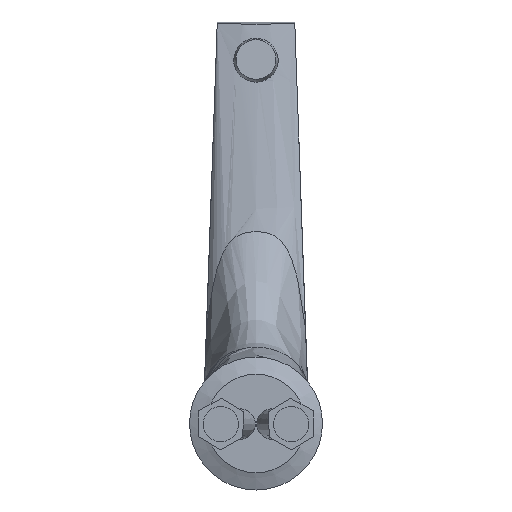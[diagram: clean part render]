
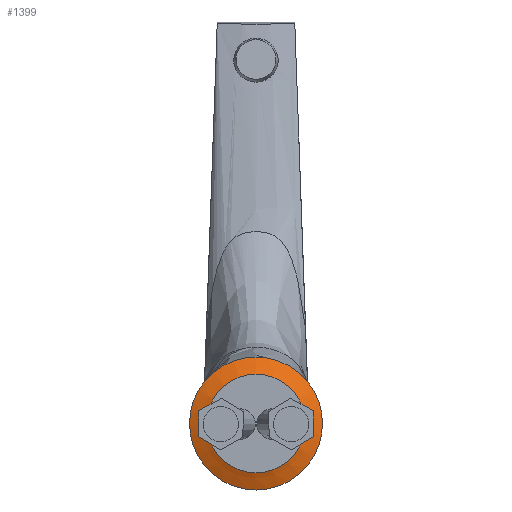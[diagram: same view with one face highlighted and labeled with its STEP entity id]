
A CAD part, front view. The second image highlights one B-rep face of the part: STEP entity #1399.
In plain terms, the highlighted conical face has half-angle 67.819 degrees and reference radius 23.405 mm.
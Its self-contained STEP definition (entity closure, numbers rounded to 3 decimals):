
#13=CONICAL_SURFACE('',#1543,23.405,1.184);
#232=FACE_OUTER_BOUND('',#320,.T.);
#320=EDGE_LOOP('',(#1203,#1204,#1205,#1206,#1207,#1208));
#381=LINE('',#3782,#440);
#440=VECTOR('',#1849,23.405);
#504=CIRCLE('',#1541,28.311);
#505=CIRCLE('',#1542,28.311);
#506=CIRCLE('',#1544,18.5);
#507=CIRCLE('',#1545,18.5);
#638=VERTEX_POINT('',#3772);
#639=VERTEX_POINT('',#3773);
#640=VERTEX_POINT('',#3778);
#641=VERTEX_POINT('',#3779);
#827=EDGE_CURVE('',#638,#639,#504,.T.);
#828=EDGE_CURVE('',#639,#638,#505,.T.);
#830=EDGE_CURVE('',#640,#641,#506,.T.);
#831=EDGE_CURVE('',#641,#640,#507,.T.);
#832=EDGE_CURVE('',#641,#639,#381,.T.);
#1203=ORIENTED_EDGE('',*,*,#830,.F.);
#1204=ORIENTED_EDGE('',*,*,#831,.F.);
#1205=ORIENTED_EDGE('',*,*,#832,.T.);
#1206=ORIENTED_EDGE('',*,*,#828,.T.);
#1207=ORIENTED_EDGE('',*,*,#827,.T.);
#1208=ORIENTED_EDGE('',*,*,#832,.F.);
#1399=ADVANCED_FACE('',(#232),#13,.T.);
#1541=AXIS2_PLACEMENT_3D('',#3774,#1838,#1839);
#1542=AXIS2_PLACEMENT_3D('',#3775,#1840,#1841);
#1543=AXIS2_PLACEMENT_3D('',#3777,#1843,#1844);
#1544=AXIS2_PLACEMENT_3D('',#3780,#1845,#1846);
#1545=AXIS2_PLACEMENT_3D('',#3781,#1847,#1848);
#1838=DIRECTION('center_axis',(0.,-1.,0.));
#1839=DIRECTION('ref_axis',(1.,0.,0.));
#1840=DIRECTION('center_axis',(0.,-1.,0.));
#1841=DIRECTION('ref_axis',(1.,0.,0.));
#1843=DIRECTION('center_axis',(0.,1.,0.));
#1844=DIRECTION('ref_axis',(0.,0.,-1.));
#1845=DIRECTION('center_axis',(0.,-1.,0.));
#1846=DIRECTION('ref_axis',(1.,0.,0.));
#1847=DIRECTION('center_axis',(0.,-1.,0.));
#1848=DIRECTION('ref_axis',(1.,0.,0.));
#1849=DIRECTION('',(0.,0.378,0.926));
#3772=CARTESIAN_POINT('',(0.,-280.,-44.329));
#3773=CARTESIAN_POINT('',(0.,-280.,12.293));
#3774=CARTESIAN_POINT('Origin',(0.,-280.,-16.018));
#3775=CARTESIAN_POINT('Origin',(0.,-280.,-16.018));
#3777=CARTESIAN_POINT('Origin',(0.,-282.,-16.018));
#3778=CARTESIAN_POINT('',(0.,-284.,-34.518));
#3779=CARTESIAN_POINT('',(0.,-284.,2.482));
#3780=CARTESIAN_POINT('Origin',(0.,-284.,-16.018));
#3781=CARTESIAN_POINT('Origin',(0.,-284.,-16.018));
#3782=CARTESIAN_POINT('',(0.,-282.,7.388));
